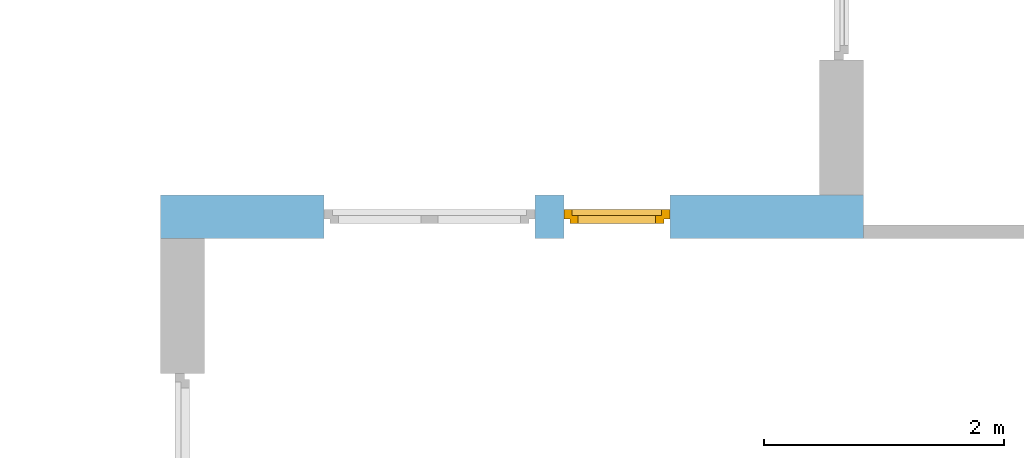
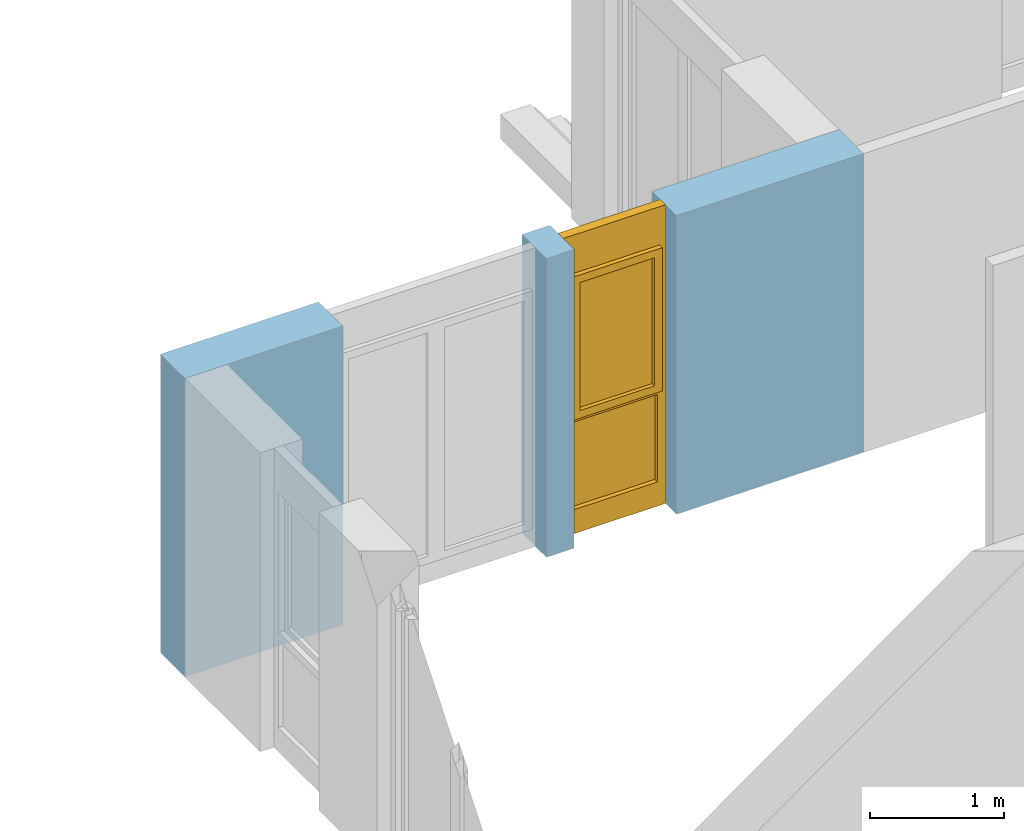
# One storey, part 17 of 41: 1 window, 2 openings, plus 1 element that does not belong to this part.
"""IFC2X3 building model written with IfcOpenShell, lengths in millimetres."""

from ifc_helpers import new_model, entity, si_unit, converted_unit, frame, frame_2d, origin, origin_with_axes, place, context, subcontext, project, spatial, rectangle, extrude, faceted_brep, material, layer, layer_set, layer_usage, type_object, element, fill, save


model = new_model("IFC2X3")

# Units and contexts
model_context = context("Model", 3, precision=1e-05, world=origin())
body_context = subcontext(model_context, "Body", "Model", "MODEL_VIEW")
ifc_project = project(units=[si_unit("LENGTHUNIT", "METRE", prefix="MILLI"), converted_unit("PLANEANGLEUNIT", "DEGREE", entity("IfcPlaneAngleMeasure", 0.0174532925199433), si_unit("PLANEANGLEUNIT", "RADIAN"), dimensions=[0, 0, 0, 0, 0, 0, 0]), si_unit("AREAUNIT", "SQUARE_METRE"), si_unit("VOLUMEUNIT", "CUBIC_METRE")], contexts=[model_context])

# Building, storey
building_placement = place(None, origin())
building = spatial("IfcBuilding", under=ifc_project, at=building_placement, Name="Gebäude", CompositionType="ELEMENT")
storey_placement = place(building_placement, frame((0.0, 0.0, -200.0), z_axis=(0.0, 0.0, 1.0), x_axis=(1.0, 0.0, 0.0)))
storey = spatial("IfcBuildingStorey", under=building, at=storey_placement, Name="EG.- Grundriss", CompositionType="ELEMENT", Elevation=-200.0)

# Wall, openings, window
ifc_material_1 = material(Name="Poroton")
ifc_layer = layer(ifc_material_1, 365.0000000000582)
ifc_layer_set = layer_set([ifc_layer])
ifc_layer_usage = layer_usage(ifc_layer_set, "AXIS2", "POSITIVE", 0.0)
wall_placement = place(storey_placement, frame((154222.7928067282, 136274.8877324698, 0.0), z_axis=(0.0, 0.0, 1.0), x_axis=(-1.0, 0.0, 0.0)))
wall = element("IfcWallStandardCase", 1, at=wall_placement, inside=storey, material=ifc_layer_usage, Name="<Unnamed Element>", context=body_context, shape_type="SweptSolid", body=[
    extrude(rectangle(XDim=5865.0, YDim=365.0000000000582, at=frame_2d((2932.5, 182.5000000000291), x_axis=(1.0, 0.0))), origin_with_axes(), (0.0, 0.0, 1.0), 2730.0),
])
opening_1_placement = place(wall_placement, frame((1615.0, 0.0, 0.0), z_axis=(0.0, 1.0, 0.0), x_axis=(0.0, 0.0, 1.0)))
opening_1 = element("IfcOpeningElement", 2, at=opening_1_placement, cuts=wall, Name="Fensteröffnung", ObjectType="Opening", context=body_context, shape_type="SweptSolid", body=[
    extrude(rectangle(XDim=2730.0, YDim=885.0, at=frame_2d((1365.0, 442.5), x_axis=(1.0, 0.0))), origin_with_axes(), (0.0, 0.0, 1.0), 365.0000000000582),
])
opening_2_placement = place(wall_placement, frame((2740.0, 0.0, 0.0), z_axis=(0.0, 1.0, 0.0), x_axis=(0.0, 0.0, 1.0)))
element("IfcOpeningElement", 3, at=opening_2_placement, cuts=wall, Name="Fensteröffnung", ObjectType="Opening", context=body_context, shape_type="SweptSolid", body=[
    extrude(rectangle(XDim=2730.0, YDim=1760.0, at=frame_2d((1365.0, 880.0), x_axis=(1.0, 0.0))), origin_with_axes(), (0.0, 0.0, 1.0), 365.0000000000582),
])
ifc_material_2 = material()
window_style = type_object("IfcWindowStyle", Name="Fenster", ConstructionType="NOTDEFINED", OperationType="USERDEFINED", ParameterTakesPrecedence=False, Sizeable=False)
window_placement = place(opening_1_placement, frame((0.0, 0.0, 0.0), z_axis=(1.0, 0.0, 0.0), x_axis=(0.0, 1.0, 0.0)))
window = element("IfcWindow", 4, at=window_placement, inside=storey, type_object=window_style, material=ifc_material_2, Name="Fenster", OverallHeight=2730.0, OverallWidth=885.0, context=body_context, shape_type="Brep", body=[
    faceted_brep([(9.797174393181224e-15, 200.0000000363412, 2730.0), (9.797174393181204e-15, 200.000000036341, -2.449293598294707e-15), (69.99999999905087, 200.000000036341, -2.449293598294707e-15), (69.99999999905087, 200.0000000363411, 2730.0), (0.0, 120.0000000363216, 2.449293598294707e-15), (2.088393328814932e-29, 120.0000000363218, 2730.0), (69.99999999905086, 120.0000000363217, 2730.0), (69.99999999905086, 120.0000000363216, 2.449293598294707e-15), (9.797174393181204e-15, 200.000000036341, -2.449293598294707e-15), (9.797174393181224e-15, 200.0000000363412, 2730.0), (2.088393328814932e-29, 120.0000000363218, 2730.0), (0.0, 120.0000000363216, 2.449293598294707e-15), (69.99999999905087, 200.000000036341, -2.449293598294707e-15), (9.797174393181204e-15, 200.000000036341, -2.449293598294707e-15), (0.0, 120.0000000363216, 2.449293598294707e-15), (69.99999999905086, 120.0000000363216, 2.449293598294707e-15), (69.99999999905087, 200.0000000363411, 2730.0), (69.99999999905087, 200.000000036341, -2.449293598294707e-15), (69.99999999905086, 120.0000000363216, 2.449293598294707e-15), (69.99999999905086, 120.0000000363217, 2730.0), (9.797174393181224e-15, 200.0000000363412, 2730.0), (69.99999999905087, 200.0000000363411, 2730.0), (69.99999999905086, 120.0000000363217, 2730.0), (2.088393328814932e-29, 120.0000000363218, 2730.0)], [[[0, 1, 2, 3]], [[4, 5, 6, 7]], [[8, 9, 10, 11]], [[12, 13, 14, 15]], [[16, 17, 18, 19]], [[20, 21, 22, 23]]], orient=[[False], [False], [False], [False], [False], [False]]),
    faceted_brep([(815.0000000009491, 200.0000000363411, 2730.0), (815.0000000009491, 200.0000000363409, -2.449293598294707e-15), (884.9999999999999, 200.0000000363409, -2.449293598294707e-15), (884.9999999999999, 200.0000000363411, 2730.0), (815.0000000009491, 120.0000000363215, 2.449293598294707e-15), (815.0000000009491, 120.0000000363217, 2730.0), (884.9999999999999, 120.0000000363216, 2730.0), (884.9999999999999, 120.0000000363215, 2.449293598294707e-15), (815.0000000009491, 200.0000000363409, -2.449293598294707e-15), (815.0000000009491, 200.0000000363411, 2730.0), (815.0000000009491, 120.0000000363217, 2730.0), (815.0000000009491, 120.0000000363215, 2.449293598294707e-15), (884.9999999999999, 200.0000000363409, -2.449293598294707e-15), (815.0000000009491, 200.0000000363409, -2.449293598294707e-15), (815.0000000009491, 120.0000000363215, 2.449293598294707e-15), (884.9999999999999, 120.0000000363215, 2.449293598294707e-15), (884.9999999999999, 200.0000000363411, 2730.0), (884.9999999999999, 200.0000000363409, -2.449293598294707e-15), (884.9999999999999, 120.0000000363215, 2.449293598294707e-15), (884.9999999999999, 120.0000000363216, 2730.0), (815.0000000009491, 200.0000000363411, 2730.0), (884.9999999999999, 200.0000000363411, 2730.0), (884.9999999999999, 120.0000000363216, 2730.0), (815.0000000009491, 120.0000000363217, 2730.0)], [[[0, 1, 2, 3]], [[4, 5, 6, 7]], [[8, 9, 10, 11]], [[12, 13, 14, 15]], [[16, 17, 18, 19]], [[20, 21, 22, 23]]], orient=[[False], [False], [False], [False], [False], [False]]),
    faceted_brep([(69.99999999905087, 200.000000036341, 220.0), (69.99999999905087, 200.000000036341, -2.449293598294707e-15), (815.0000000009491, 200.0000000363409, -2.449293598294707e-15), (815.0000000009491, 200.0000000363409, 220.0), (69.99999999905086, 120.0000000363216, 2.449293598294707e-15), (69.99999999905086, 120.0000000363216, 220.0), (815.0000000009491, 120.0000000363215, 220.0), (815.0000000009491, 120.0000000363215, 2.449293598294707e-15), (69.99999999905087, 200.000000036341, -2.449293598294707e-15), (69.99999999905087, 200.000000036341, 220.0), (69.99999999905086, 120.0000000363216, 220.0), (69.99999999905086, 120.0000000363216, 2.449293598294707e-15), (815.0000000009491, 200.0000000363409, -2.449293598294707e-15), (69.99999999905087, 200.000000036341, -2.449293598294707e-15), (69.99999999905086, 120.0000000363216, 2.449293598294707e-15), (815.0000000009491, 120.0000000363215, 2.449293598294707e-15), (815.0000000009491, 200.0000000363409, 220.0), (815.0000000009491, 200.0000000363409, -2.449293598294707e-15), (815.0000000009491, 120.0000000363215, 2.449293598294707e-15), (815.0000000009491, 120.0000000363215, 220.0), (69.99999999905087, 200.000000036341, 220.0), (815.0000000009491, 200.0000000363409, 220.0), (815.0000000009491, 120.0000000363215, 220.0), (69.99999999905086, 120.0000000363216, 220.0)], [[[0, 1, 2, 3]], [[4, 5, 6, 7]], [[8, 9, 10, 11]], [[12, 13, 14, 15]], [[16, 17, 18, 19]], [[20, 21, 22, 23]]], orient=[[False], [False], [False], [False], [False], [False]]),
    faceted_brep([(69.99999999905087, 200.0000000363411, 2730.0), (69.99999999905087, 200.0000000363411, 2360.0), (815.0000000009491, 200.000000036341, 2360.0), (815.0000000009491, 200.0000000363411, 2730.0), (69.99999999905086, 120.0000000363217, 2360.0), (69.99999999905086, 120.0000000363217, 2730.0), (815.0000000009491, 120.0000000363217, 2730.0), (815.0000000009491, 120.0000000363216, 2360.0), (69.99999999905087, 200.0000000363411, 2360.0), (69.99999999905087, 200.0000000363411, 2730.0), (69.99999999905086, 120.0000000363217, 2730.0), (69.99999999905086, 120.0000000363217, 2360.0), (815.0000000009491, 200.000000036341, 2360.0), (69.99999999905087, 200.0000000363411, 2360.0), (69.99999999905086, 120.0000000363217, 2360.0), (815.0000000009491, 120.0000000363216, 2360.0), (815.0000000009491, 200.0000000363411, 2730.0), (815.0000000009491, 200.000000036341, 2360.0), (815.0000000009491, 120.0000000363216, 2360.0), (815.0000000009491, 120.0000000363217, 2730.0), (69.99999999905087, 200.0000000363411, 2730.0), (815.0000000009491, 200.0000000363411, 2730.0), (815.0000000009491, 120.0000000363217, 2730.0), (69.99999999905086, 120.0000000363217, 2730.0)], [[[0, 1, 2, 3]], [[4, 5, 6, 7]], [[8, 9, 10, 11]], [[12, 13, 14, 15]], [[16, 17, 18, 19]], [[20, 21, 22, 23]]], orient=[[False], [False], [False], [False], [False], [False]]),
    faceted_brep([(69.99999999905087, 200.000000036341, 1090.0), (69.99999999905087, 200.000000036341, 1020.0), (815.0000000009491, 200.000000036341, 1020.0), (815.0000000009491, 200.000000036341, 1090.0), (69.99999999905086, 120.0000000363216, 1020.0), (69.99999999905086, 120.0000000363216, 1090.0), (815.0000000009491, 120.0000000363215, 1090.0), (815.0000000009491, 120.0000000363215, 1020.0), (69.99999999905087, 200.000000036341, 1020.0), (69.99999999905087, 200.000000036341, 1090.0), (69.99999999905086, 120.0000000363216, 1090.0), (69.99999999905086, 120.0000000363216, 1020.0), (815.0000000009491, 200.000000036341, 1020.0), (69.99999999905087, 200.000000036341, 1020.0), (69.99999999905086, 120.0000000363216, 1020.0), (815.0000000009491, 120.0000000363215, 1020.0), (815.0000000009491, 200.000000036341, 1090.0), (815.0000000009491, 200.000000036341, 1020.0), (815.0000000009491, 120.0000000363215, 1020.0), (815.0000000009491, 120.0000000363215, 1090.0), (69.99999999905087, 200.000000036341, 1090.0), (815.0000000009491, 200.000000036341, 1090.0), (815.0000000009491, 120.0000000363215, 1090.0), (69.99999999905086, 120.0000000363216, 1090.0)], [[[0, 1, 2, 3]], [[4, 5, 6, 7]], [[8, 9, 10, 11]], [[12, 13, 14, 15]], [[16, 17, 18, 19]], [[20, 21, 22, 23]]], orient=[[False], [False], [False], [False], [False], [False]]),
    faceted_brep([(69.99999999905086, 160.0000000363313, 220.0), (815.0000000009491, 160.0000000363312, 220.0), (815.0000000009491, 160.0000000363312, 1020.0), (69.99999999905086, 160.0000000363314, 1020.0), (69.99999999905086, 159.0000000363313, 220.0), (69.99999999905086, 159.0000000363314, 1020.0), (815.0000000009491, 159.0000000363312, 1020.0), (815.0000000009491, 159.0000000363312, 220.0), (69.99999999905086, 160.0000000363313, 220.0), (69.99999999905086, 159.0000000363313, 220.0), (815.0000000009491, 159.0000000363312, 220.0), (815.0000000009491, 160.0000000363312, 220.0), (815.0000000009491, 160.0000000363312, 220.0), (815.0000000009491, 159.0000000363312, 220.0), (815.0000000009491, 159.0000000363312, 1020.0), (815.0000000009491, 160.0000000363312, 1020.0), (815.0000000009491, 160.0000000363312, 1020.0), (815.0000000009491, 159.0000000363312, 1020.0), (69.99999999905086, 159.0000000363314, 1020.0), (69.99999999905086, 160.0000000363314, 1020.0), (69.99999999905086, 160.0000000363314, 1020.0), (69.99999999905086, 159.0000000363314, 1020.0), (69.99999999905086, 159.0000000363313, 220.0), (69.99999999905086, 160.0000000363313, 220.0)], [[[0, 1, 2, 3]], [[4, 5, 6, 7]], [[8, 9, 10, 11]], [[12, 13, 14, 15]], [[16, 17, 18, 19]], [[20, 21, 22, 23]]], orient=[[False], [False], [False], [False], [False], [False]]),
    faceted_brep([(49.99999999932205, 240.0000000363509, 2380.0), (49.99999999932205, 240.0000000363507, 1070.0), (119.9999999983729, 240.0000000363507, 1070.0), (119.9999999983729, 240.0000000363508, 2380.0), (49.99999999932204, 170.0000000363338, 1070.0), (49.99999999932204, 170.0000000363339, 2380.0), (119.9999999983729, 170.0000000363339, 2380.0), (119.9999999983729, 170.0000000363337, 1070.0), (49.99999999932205, 240.0000000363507, 1070.0), (49.99999999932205, 240.0000000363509, 2380.0), (49.99999999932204, 170.0000000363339, 2380.0), (49.99999999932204, 170.0000000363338, 1070.0), (119.9999999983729, 240.0000000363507, 1070.0), (49.99999999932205, 240.0000000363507, 1070.0), (49.99999999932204, 170.0000000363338, 1070.0), (119.9999999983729, 170.0000000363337, 1070.0), (119.9999999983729, 240.0000000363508, 2380.0), (119.9999999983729, 240.0000000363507, 1070.0), (119.9999999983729, 170.0000000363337, 1070.0), (119.9999999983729, 170.0000000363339, 2380.0), (49.99999999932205, 240.0000000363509, 2380.0), (119.9999999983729, 240.0000000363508, 2380.0), (119.9999999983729, 170.0000000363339, 2380.0), (49.99999999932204, 170.0000000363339, 2380.0)], [[[0, 1, 2, 3]], [[4, 5, 6, 7]], [[8, 9, 10, 11]], [[12, 13, 14, 15]], [[16, 17, 18, 19]], [[20, 21, 22, 23]]], orient=[[False], [False], [False], [False], [False], [False]]),
    faceted_brep([(765.000000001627, 240.0000000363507, 2380.0), (765.000000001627, 240.0000000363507, 1070.0), (835.0000000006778, 240.0000000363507, 1070.0), (835.0000000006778, 240.0000000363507, 2380.0), (765.000000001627, 170.0000000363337, 1070.0), (765.000000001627, 170.0000000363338, 2380.0), (835.0000000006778, 170.0000000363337, 2380.0), (835.0000000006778, 170.0000000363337, 1070.0), (765.000000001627, 240.0000000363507, 1070.0), (765.000000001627, 240.0000000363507, 2380.0), (765.000000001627, 170.0000000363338, 2380.0), (765.000000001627, 170.0000000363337, 1070.0), (835.0000000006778, 240.0000000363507, 1070.0), (765.000000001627, 240.0000000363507, 1070.0), (765.000000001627, 170.0000000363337, 1070.0), (835.0000000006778, 170.0000000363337, 1070.0), (835.0000000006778, 240.0000000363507, 2380.0), (835.0000000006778, 240.0000000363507, 1070.0), (835.0000000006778, 170.0000000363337, 1070.0), (835.0000000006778, 170.0000000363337, 2380.0), (765.000000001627, 240.0000000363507, 2380.0), (835.0000000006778, 240.0000000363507, 2380.0), (835.0000000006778, 170.0000000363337, 2380.0), (765.000000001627, 170.0000000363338, 2380.0)], [[[0, 1, 2, 3]], [[4, 5, 6, 7]], [[8, 9, 10, 11]], [[12, 13, 14, 15]], [[16, 17, 18, 19]], [[20, 21, 22, 23]]], orient=[[False], [False], [False], [False], [False], [False]]),
    faceted_brep([(119.9999999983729, 240.0000000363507, 1140.0), (119.9999999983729, 240.0000000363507, 1070.0), (765.000000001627, 240.0000000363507, 1070.0), (765.000000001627, 240.0000000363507, 1140.0), (119.9999999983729, 170.0000000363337, 1070.0), (119.9999999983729, 170.0000000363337, 1140.0), (765.000000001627, 170.0000000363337, 1140.0), (765.000000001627, 170.0000000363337, 1070.0), (119.9999999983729, 240.0000000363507, 1070.0), (119.9999999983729, 240.0000000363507, 1140.0), (119.9999999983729, 170.0000000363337, 1140.0), (119.9999999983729, 170.0000000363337, 1070.0), (765.000000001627, 240.0000000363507, 1070.0), (119.9999999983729, 240.0000000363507, 1070.0), (119.9999999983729, 170.0000000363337, 1070.0), (765.000000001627, 170.0000000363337, 1070.0), (765.000000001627, 240.0000000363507, 1140.0), (765.000000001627, 240.0000000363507, 1070.0), (765.000000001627, 170.0000000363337, 1070.0), (765.000000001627, 170.0000000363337, 1140.0), (119.9999999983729, 240.0000000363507, 1140.0), (765.000000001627, 240.0000000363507, 1140.0), (765.000000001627, 170.0000000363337, 1140.0), (119.9999999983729, 170.0000000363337, 1140.0)], [[[0, 1, 2, 3]], [[4, 5, 6, 7]], [[8, 9, 10, 11]], [[12, 13, 14, 15]], [[16, 17, 18, 19]], [[20, 21, 22, 23]]], orient=[[False], [False], [False], [False], [False], [False]]),
    faceted_brep([(119.9999999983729, 240.0000000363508, 2380.0), (119.9999999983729, 240.0000000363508, 2310.0), (765.000000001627, 240.0000000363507, 2310.0), (765.000000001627, 240.0000000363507, 2380.0), (119.9999999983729, 170.0000000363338, 2310.0), (119.9999999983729, 170.0000000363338, 2380.0), (765.000000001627, 170.0000000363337, 2380.0), (765.000000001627, 170.0000000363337, 2310.0), (119.9999999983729, 240.0000000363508, 2310.0), (119.9999999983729, 240.0000000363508, 2380.0), (119.9999999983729, 170.0000000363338, 2380.0), (119.9999999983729, 170.0000000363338, 2310.0), (765.000000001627, 240.0000000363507, 2310.0), (119.9999999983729, 240.0000000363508, 2310.0), (119.9999999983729, 170.0000000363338, 2310.0), (765.000000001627, 170.0000000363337, 2310.0), (765.000000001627, 240.0000000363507, 2380.0), (765.000000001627, 240.0000000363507, 2310.0), (765.000000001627, 170.0000000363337, 2310.0), (765.000000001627, 170.0000000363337, 2380.0), (119.9999999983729, 240.0000000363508, 2380.0), (765.000000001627, 240.0000000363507, 2380.0), (765.000000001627, 170.0000000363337, 2380.0), (119.9999999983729, 170.0000000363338, 2380.0)], [[[0, 1, 2, 3]], [[4, 5, 6, 7]], [[8, 9, 10, 11]], [[12, 13, 14, 15]], [[16, 17, 18, 19]], [[20, 21, 22, 23]]], orient=[[False], [False], [False], [False], [False], [False]]),
    faceted_brep([(119.9999999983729, 205.0000000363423, 1140.0), (765.000000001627, 205.0000000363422, 1140.0), (765.000000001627, 205.0000000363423, 2310.0), (119.9999999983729, 205.0000000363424, 2310.0), (119.9999999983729, 204.0000000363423, 1140.0), (119.9999999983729, 204.0000000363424, 2310.0), (765.000000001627, 204.0000000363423, 2310.0), (765.000000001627, 204.0000000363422, 1140.0), (119.9999999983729, 205.0000000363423, 1140.0), (119.9999999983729, 204.0000000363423, 1140.0), (765.000000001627, 204.0000000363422, 1140.0), (765.000000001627, 205.0000000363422, 1140.0), (765.000000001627, 205.0000000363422, 1140.0), (765.000000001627, 204.0000000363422, 1140.0), (765.000000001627, 204.0000000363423, 2310.0), (765.000000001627, 205.0000000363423, 2310.0), (765.000000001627, 205.0000000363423, 2310.0), (765.000000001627, 204.0000000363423, 2310.0), (119.9999999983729, 204.0000000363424, 2310.0), (119.9999999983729, 205.0000000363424, 2310.0), (119.9999999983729, 205.0000000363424, 2310.0), (119.9999999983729, 204.0000000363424, 2310.0), (119.9999999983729, 204.0000000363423, 1140.0), (119.9999999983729, 205.0000000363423, 1140.0)], [[[0, 1, 2, 3]], [[4, 5, 6, 7]], [[8, 9, 10, 11]], [[12, 13, 14, 15]], [[16, 17, 18, 19]], [[20, 21, 22, 23]]], orient=[[False], [False], [False], [False], [False], [False]]),
])
fill(opening_1, window)

save(model, "model.ifc")
